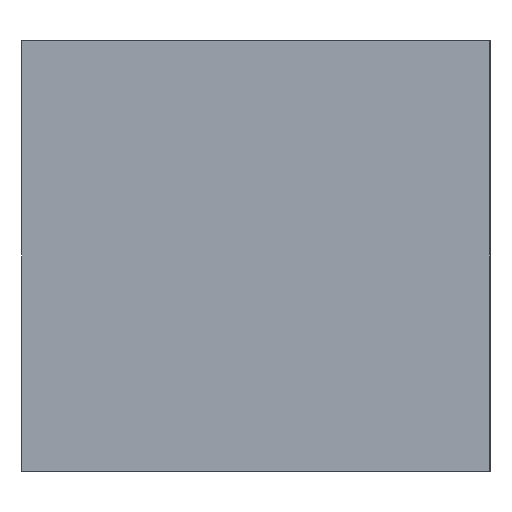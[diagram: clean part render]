
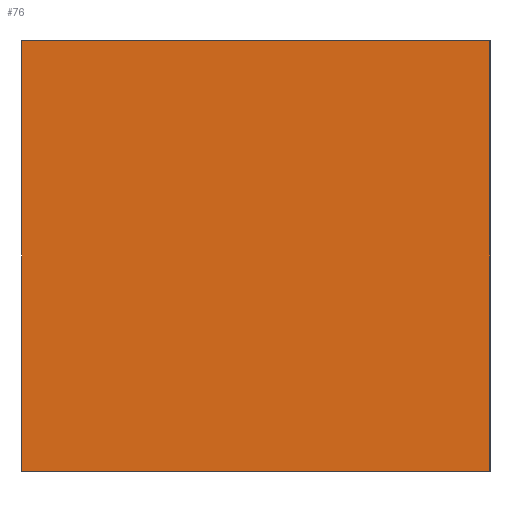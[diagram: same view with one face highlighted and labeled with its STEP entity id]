
A CAD part, left-side view. The second image highlights one B-rep face of the part: STEP entity #76.
In plain terms, the highlighted planar face has unit normal (-1, 0, 0).
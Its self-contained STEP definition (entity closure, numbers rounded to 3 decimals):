
#71=FACE_OUTER_BOUND('',#266,.T.);
#76=ADVANCED_FACE('',(#71),#119,.T.);
#119=PLANE('',#615);
#136=LINE('',#878,#148);
#138=LINE('',#890,#150);
#143=LINE('',#912,#155);
#144=LINE('',#916,#156);
#148=VECTOR('',#692,1.);
#150=VECTOR('',#704,1.);
#155=VECTOR('',#723,1.);
#156=VECTOR('',#728,1.);
#266=EDGE_LOOP('',(#365,#366,#367,#368));
#365=ORIENTED_EDGE('',*,*,#506,.T.);
#366=ORIENTED_EDGE('',*,*,#523,.T.);
#367=ORIENTED_EDGE('',*,*,#512,.F.);
#368=ORIENTED_EDGE('',*,*,#525,.T.);
#452=VERTEX_POINT('',#877);
#453=VERTEX_POINT('',#879);
#458=VERTEX_POINT('',#891);
#459=VERTEX_POINT('',#892);
#506=EDGE_CURVE('',#453,#452,#136,.T.);
#512=EDGE_CURVE('',#458,#459,#138,.T.);
#523=EDGE_CURVE('',#452,#459,#143,.T.);
#525=EDGE_CURVE('',#458,#453,#144,.T.);
#615=AXIS2_PLACEMENT_3D('',#917,#729,#730);
#692=DIRECTION('',(0.,0.,1.));
#704=DIRECTION('',(0.,0.,1.));
#723=DIRECTION('',(0.,1.,0.));
#728=DIRECTION('',(0.,-1.,0.));
#729=DIRECTION('',(-1.,0.,0.));
#730=DIRECTION('',(0.,0.,1.));
#877=CARTESIAN_POINT('',(-34.,-25.,0.));
#878=CARTESIAN_POINT('',(-34.,-25.,-46.));
#879=CARTESIAN_POINT('',(-34.,-25.,-46.));
#890=CARTESIAN_POINT('',(-34.,25.,-46.));
#891=CARTESIAN_POINT('',(-34.,25.,-46.));
#892=CARTESIAN_POINT('',(-34.,25.,0.));
#912=CARTESIAN_POINT('',(-34.,0.,0.));
#916=CARTESIAN_POINT('',(-34.,0.,-46.));
#917=CARTESIAN_POINT('',(-34.,0.,-46.));
